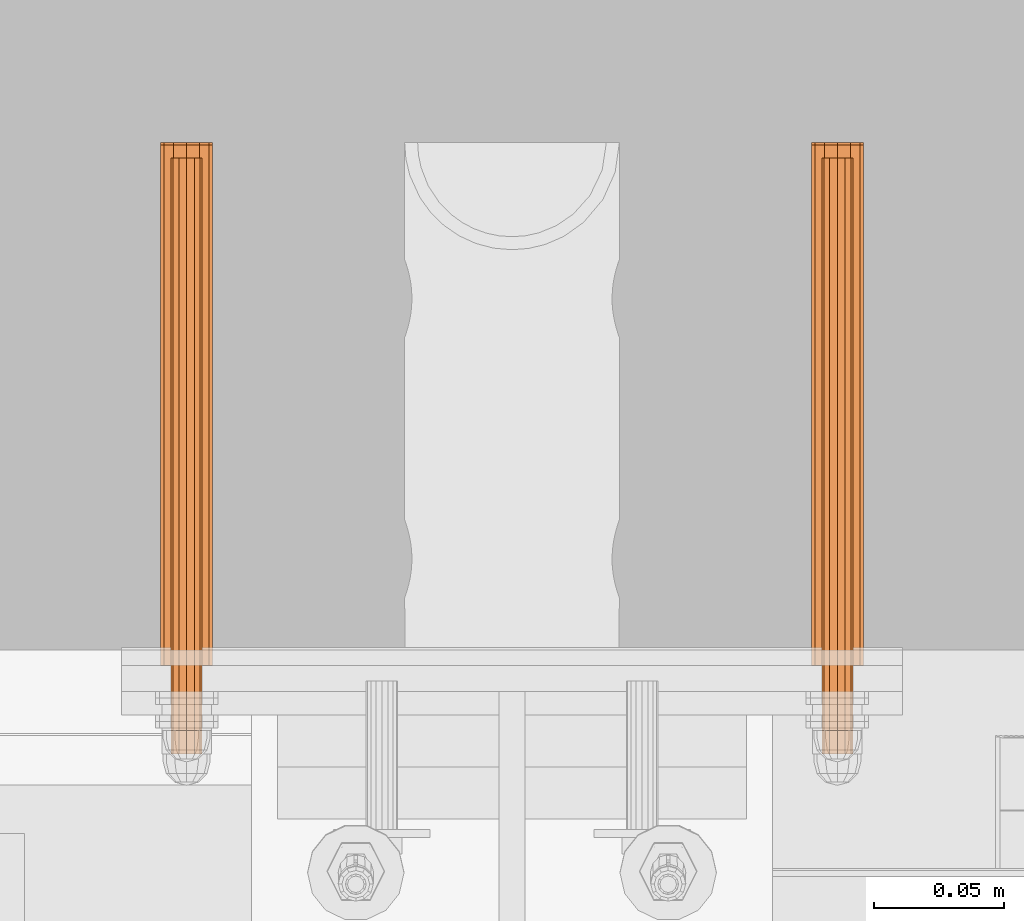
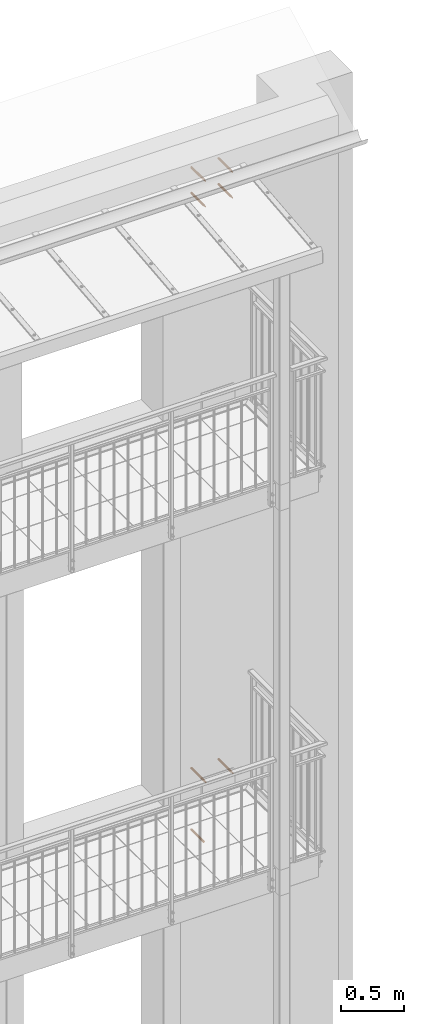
# One storey, part 98 of 162: 13 proxies.
"""IFC2X3 building model written with IfcOpenShell, lengths in millimetres."""

from ifc_helpers import new_model, entity, si_unit, converted_unit, origin_with_axes, place, context, project, spatial, faceted_brep, material, element, save


model = new_model("IFC2X3")

# Units and contexts
model_context = context("Model", 3, precision=1e-09, world=origin_with_axes())
ifc_project = project(units=[si_unit("LENGTHUNIT", "METRE", prefix="MILLI"), si_unit("AREAUNIT", "SQUARE_METRE"), si_unit("VOLUMEUNIT", "CUBIC_METRE"), converted_unit("PLANEANGLEUNIT", "DEGREE", entity("IfcPlaneAngleMeasure", 0.01745329), si_unit("PLANEANGLEUNIT", "RADIAN"), dimensions=[0, 0, 0, 0, 0, 0, 0])], contexts=[model_context])

# Site, building, storey
site_placement = place(None, origin_with_axes())
site = spatial("IfcSite", under=ifc_project, at=site_placement, Name="Hermannstra?e 1a, 60318 Frankfurt", CompositionType="ELEMENT")
building_placement = place(site_placement, origin_with_axes())
building = spatial("IfcBuilding", under=site, at=building_placement, Name="Struktur 1", CompositionType="ELEMENT")
storey_placement = place(building_placement, origin_with_axes())
storey = spatial("IfcBuildingStorey", under=building, at=storey_placement, Name="Default Storey", CompositionType="ELEMENT", Elevation=0.0)

# Proxies
ifc_material_1 = material(Name="Kunststoff")
proxy_1_placement = place(None, origin_with_axes())
element("IfcBuildingElementProxy", 1, at=proxy_1_placement, inside=storey, material=ifc_material_1, ObjectType="-", context=model_context, shape_type="Brep", body=[
    faceted_brep([(5706.969618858, 2929.609373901, 17211.999), (5703.309364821, 2929.609373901, 17208.338745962), (5698.309364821, 2929.609373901, 17206.999), (5693.309364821, 2929.609373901, 17208.338745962), (5689.649110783, 2929.609373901, 17211.999), (5688.309364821, 2929.609373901, 17216.999), (5689.649110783, 2929.609373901, 17221.999), (5693.309364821, 2929.609373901, 17225.659254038), (5698.309364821, 2929.609373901, 17226.999), (5703.309364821, 2929.609373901, 17225.659254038), (5706.969618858, 2929.609373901, 17221.999), (5708.309364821, 2929.609373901, 17216.999), (5698.309364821, 2729.609373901, 17226.999), (5703.309364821, 2729.609373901, 17225.659254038), (5693.309364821, 2729.609373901, 17225.659254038), (5689.649110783, 2729.609373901, 17221.999), (5689.649110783, 2729.609373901, 17211.999), (5693.309364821, 2729.609373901, 17208.338745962), (5688.309364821, 2729.609373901, 17216.999), (5698.309364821, 2729.609373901, 17206.999), (5703.309364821, 2729.609373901, 17208.338745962), (5706.969618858, 2729.609373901, 17211.999), (5708.309364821, 2729.609373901, 17216.999), (5706.969618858, 2729.609373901, 17221.999), (5694.059364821, 2729.609373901, 17209.637784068), (5690.948148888, 2729.609373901, 17212.749), (5689.809364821, 2729.609373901, 17216.999), (5690.948148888, 2729.609373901, 17221.249), (5694.059364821, 2729.609373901, 17224.360215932), (5698.309364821, 2729.609373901, 17225.499), (5702.559364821, 2729.609373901, 17224.360215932), (5705.670580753, 2729.609373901, 17221.249), (5706.809364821, 2729.609373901, 17216.999), (5705.670580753, 2729.609373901, 17212.749), (5702.559364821, 2729.609373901, 17209.637784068), (5698.309364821, 2729.609373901, 17208.499), (5694.059364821, 2927.609373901, 17209.637784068), (5698.309364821, 2927.609373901, 17208.499), (5690.948148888, 2927.609373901, 17212.749), (5698.309364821, 2927.609373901, 17225.499), (5702.559364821, 2927.609373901, 17224.360215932), (5694.059364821, 2927.609373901, 17224.360215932), (5705.670580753, 2927.609373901, 17221.249), (5690.948148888, 2927.609373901, 17221.249), (5689.809364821, 2927.609373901, 17216.999), (5702.559364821, 2927.609373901, 17209.637784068), (5705.670580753, 2927.609373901, 17212.749), (5706.809364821, 2927.609373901, 17216.999)], [[[0, 1, 2, 3, 4, 5, 6, 7, 8, 9, 10, 11]], [[8, 12, 13, 9]], [[7, 14, 12, 8]], [[6, 15, 14, 7]], [[16, 4, 3, 17]], [[5, 18, 15, 6]], [[17, 3, 2, 19]], [[18, 16, 17, 19, 20, 21, 22, 23, 13, 12, 14, 15], [24, 25, 26, 27, 28, 29, 30, 31, 32, 33, 34, 35]], [[18, 5, 4, 16]], [[9, 13, 23, 10]], [[19, 2, 1, 20]], [[36, 24, 35, 37]], [[24, 36, 38, 25]], [[29, 39, 40, 30]], [[39, 29, 28, 41]], [[42, 40, 39, 41, 43, 44, 38, 36, 37, 45, 46, 47]], [[10, 23, 22, 11]], [[20, 1, 0, 21]], [[37, 35, 34, 45]], [[27, 43, 41, 28]], [[26, 44, 43, 27]], [[25, 38, 44, 26]], [[11, 22, 21, 0]], [[30, 40, 42, 31]], [[45, 34, 33, 46]], [[31, 42, 47, 32]], [[46, 33, 32, 47]]]),
])
ifc_material_2 = material(Name="A4")
proxy_2_placement = place(None, origin_with_axes())
element("IfcBuildingElementProxy", 2, at=proxy_2_placement, inside=storey, material=ifc_material_2, ObjectType="-", context=model_context, shape_type="Brep", body=[
    faceted_brep([(5698.309364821, 2924.609373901, 17222.999), (5698.309364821, 2704.609373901, 17222.999), (5701.309364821, 2704.609373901, 17222.195152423), (5701.309364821, 2924.609373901, 17222.195152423), (5695.309364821, 2924.609373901, 17222.195152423), (5695.309364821, 2704.609373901, 17222.195152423), (5693.113212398, 2704.609373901, 17213.999), (5695.309364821, 2704.609373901, 17211.802847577), (5698.309364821, 2704.609373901, 17210.999), (5701.309364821, 2704.609373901, 17211.802847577), (5703.505517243, 2704.609373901, 17213.999), (5704.309364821, 2704.609373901, 17216.999), (5703.505517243, 2704.609373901, 17219.999), (5693.113212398, 2704.609373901, 17219.999), (5692.309364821, 2704.609373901, 17216.999), (5703.505517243, 2924.609373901, 17213.999), (5701.309364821, 2924.609373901, 17211.802847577), (5698.309364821, 2924.609373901, 17210.999), (5695.309364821, 2924.609373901, 17211.802847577), (5693.113212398, 2924.609373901, 17213.999), (5692.309364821, 2924.609373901, 17216.999), (5693.113212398, 2924.609373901, 17219.999), (5703.505517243, 2924.609373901, 17219.999), (5704.309364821, 2924.609373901, 17216.999)], [[[0, 1, 2, 3]], [[1, 0, 4, 5]], [[6, 7, 8, 9, 10, 11, 12, 2, 1, 5, 13, 14]], [[15, 16, 17, 18, 19, 20, 21, 4, 0, 3, 22, 23]], [[3, 2, 12, 22]], [[5, 4, 21, 13]], [[11, 23, 22, 12]], [[10, 15, 23, 11]], [[13, 21, 20, 14]], [[16, 9, 8, 17]], [[15, 10, 9, 16]], [[17, 8, 7, 18]], [[14, 20, 19, 6]], [[18, 7, 6, 19]]]),
])
proxy_3_placement = place(None, origin_with_axes())
element("IfcBuildingElementProxy", 3, at=proxy_3_placement, inside=storey, material=ifc_material_1, ObjectType="-", context=model_context, shape_type="Brep", body=[
    faceted_brep([(5456.969618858, 2929.609373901, 17211.999), (5453.309364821, 2929.609373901, 17208.338745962), (5448.309364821, 2929.609373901, 17206.999), (5443.309364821, 2929.609373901, 17208.338745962), (5439.649110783, 2929.609373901, 17211.999), (5438.309364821, 2929.609373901, 17216.999), (5439.649110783, 2929.609373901, 17221.999), (5443.309364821, 2929.609373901, 17225.659254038), (5448.309364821, 2929.609373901, 17226.999), (5453.309364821, 2929.609373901, 17225.659254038), (5456.969618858, 2929.609373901, 17221.999), (5458.309364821, 2929.609373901, 17216.999), (5448.309364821, 2729.609373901, 17226.999), (5453.309364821, 2729.609373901, 17225.659254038), (5443.309364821, 2729.609373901, 17225.659254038), (5439.649110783, 2729.609373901, 17221.999), (5439.649110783, 2729.609373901, 17211.999), (5443.309364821, 2729.609373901, 17208.338745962), (5438.309364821, 2729.609373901, 17216.999), (5448.309364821, 2729.609373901, 17206.999), (5453.309364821, 2729.609373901, 17208.338745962), (5456.969618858, 2729.609373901, 17211.999), (5458.309364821, 2729.609373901, 17216.999), (5456.969618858, 2729.609373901, 17221.999), (5444.059364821, 2729.609373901, 17209.637784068), (5440.948148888, 2729.609373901, 17212.749), (5439.809364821, 2729.609373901, 17216.999), (5440.948148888, 2729.609373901, 17221.249), (5444.059364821, 2729.609373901, 17224.360215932), (5448.309364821, 2729.609373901, 17225.499), (5452.559364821, 2729.609373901, 17224.360215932), (5455.670580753, 2729.609373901, 17221.249), (5456.809364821, 2729.609373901, 17216.999), (5455.670580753, 2729.609373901, 17212.749), (5452.559364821, 2729.609373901, 17209.637784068), (5448.309364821, 2729.609373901, 17208.499), (5444.059364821, 2927.609373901, 17209.637784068), (5448.309364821, 2927.609373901, 17208.499), (5440.948148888, 2927.609373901, 17212.749), (5448.309364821, 2927.609373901, 17225.499), (5452.559364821, 2927.609373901, 17224.360215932), (5444.059364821, 2927.609373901, 17224.360215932), (5455.670580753, 2927.609373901, 17221.249), (5440.948148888, 2927.609373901, 17221.249), (5439.809364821, 2927.609373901, 17216.999), (5452.559364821, 2927.609373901, 17209.637784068), (5455.670580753, 2927.609373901, 17212.749), (5456.809364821, 2927.609373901, 17216.999)], [[[0, 1, 2, 3, 4, 5, 6, 7, 8, 9, 10, 11]], [[8, 12, 13, 9]], [[7, 14, 12, 8]], [[6, 15, 14, 7]], [[16, 4, 3, 17]], [[5, 18, 15, 6]], [[17, 3, 2, 19]], [[18, 16, 17, 19, 20, 21, 22, 23, 13, 12, 14, 15], [24, 25, 26, 27, 28, 29, 30, 31, 32, 33, 34, 35]], [[18, 5, 4, 16]], [[9, 13, 23, 10]], [[19, 2, 1, 20]], [[36, 24, 35, 37]], [[24, 36, 38, 25]], [[29, 39, 40, 30]], [[39, 29, 28, 41]], [[42, 40, 39, 41, 43, 44, 38, 36, 37, 45, 46, 47]], [[10, 23, 22, 11]], [[20, 1, 0, 21]], [[37, 35, 34, 45]], [[27, 43, 41, 28]], [[26, 44, 43, 27]], [[25, 38, 44, 26]], [[11, 22, 21, 0]], [[30, 40, 42, 31]], [[45, 34, 33, 46]], [[31, 42, 47, 32]], [[46, 33, 32, 47]]]),
])
proxy_4_placement = place(None, origin_with_axes())
element("IfcBuildingElementProxy", 4, at=proxy_4_placement, inside=storey, material=ifc_material_2, ObjectType="-", context=model_context, shape_type="Brep", body=[
    faceted_brep([(5448.309364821, 2924.609373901, 17222.999), (5448.309364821, 2704.609373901, 17222.999), (5451.309364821, 2704.609373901, 17222.195152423), (5451.309364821, 2924.609373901, 17222.195152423), (5445.309364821, 2924.609373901, 17222.195152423), (5445.309364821, 2704.609373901, 17222.195152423), (5443.113212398, 2704.609373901, 17213.999), (5445.309364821, 2704.609373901, 17211.802847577), (5448.309364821, 2704.609373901, 17210.999), (5451.309364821, 2704.609373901, 17211.802847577), (5453.505517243, 2704.609373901, 17213.999), (5454.309364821, 2704.609373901, 17216.999), (5453.505517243, 2704.609373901, 17219.999), (5443.113212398, 2704.609373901, 17219.999), (5442.309364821, 2704.609373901, 17216.999), (5453.505517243, 2924.609373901, 17213.999), (5451.309364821, 2924.609373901, 17211.802847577), (5448.309364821, 2924.609373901, 17210.999), (5445.309364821, 2924.609373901, 17211.802847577), (5443.113212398, 2924.609373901, 17213.999), (5442.309364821, 2924.609373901, 17216.999), (5443.113212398, 2924.609373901, 17219.999), (5453.505517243, 2924.609373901, 17219.999), (5454.309364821, 2924.609373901, 17216.999)], [[[0, 1, 2, 3]], [[1, 0, 4, 5]], [[6, 7, 8, 9, 10, 11, 12, 2, 1, 5, 13, 14]], [[15, 16, 17, 18, 19, 20, 21, 4, 0, 3, 22, 23]], [[3, 2, 12, 22]], [[5, 4, 21, 13]], [[11, 23, 22, 12]], [[10, 15, 23, 11]], [[13, 21, 20, 14]], [[16, 9, 8, 17]], [[15, 10, 9, 16]], [[17, 8, 7, 18]], [[14, 20, 19, 6]], [[18, 7, 6, 19]]]),
])
proxy_5_placement = place(None, origin_with_axes())
element("IfcBuildingElementProxy", 5, at=proxy_5_placement, inside=storey, material=ifc_material_2, ObjectType="-", context=model_context, shape_type="Brep", body=[
    faceted_brep([(5448.309364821, 2704.609373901, 17460.999), (5448.309364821, 2924.609373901, 17460.999), (5451.309364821, 2924.609373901, 17461.802847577), (5451.309364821, 2704.609373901, 17461.802847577), (5445.309364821, 2704.609373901, 17461.802847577), (5445.309364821, 2924.609373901, 17461.802847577), (5445.309364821, 2704.609373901, 17472.195152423), (5443.113212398, 2704.609373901, 17469.999), (5442.309364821, 2704.609373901, 17466.999), (5443.113212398, 2704.609373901, 17463.999), (5453.505517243, 2704.609373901, 17463.999), (5454.309364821, 2704.609373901, 17466.999), (5453.505517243, 2704.609373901, 17469.999), (5451.309364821, 2704.609373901, 17472.195152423), (5448.309364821, 2704.609373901, 17472.999), (5451.309364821, 2924.609373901, 17472.195152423), (5453.505517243, 2924.609373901, 17469.999), (5454.309364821, 2924.609373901, 17466.999), (5453.505517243, 2924.609373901, 17463.999), (5443.113212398, 2924.609373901, 17463.999), (5442.309364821, 2924.609373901, 17466.999), (5443.113212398, 2924.609373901, 17469.999), (5445.309364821, 2924.609373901, 17472.195152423), (5448.309364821, 2924.609373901, 17472.999)], [[[0, 1, 2, 3]], [[1, 0, 4, 5]], [[6, 7, 8, 9, 4, 0, 3, 10, 11, 12, 13, 14]], [[15, 16, 17, 18, 2, 1, 5, 19, 20, 21, 22, 23]], [[3, 2, 18, 10]], [[5, 4, 9, 19]], [[17, 11, 10, 18]], [[16, 12, 11, 17]], [[19, 9, 8, 20]], [[13, 15, 23, 14]], [[12, 16, 15, 13]], [[14, 23, 22, 6]], [[20, 8, 7, 21]], [[6, 22, 21, 7]]]),
])
proxy_6_placement = place(None, origin_with_axes())
element("IfcBuildingElementProxy", 6, at=proxy_6_placement, inside=storey, material=ifc_material_1, ObjectType="-", context=model_context, shape_type="Brep", body=[
    faceted_brep([(5453.309364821, 2929.609373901, 17475.659254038), (5456.969618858, 2929.609373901, 17471.999), (5458.309364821, 2929.609373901, 17466.999), (5456.969618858, 2929.609373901, 17461.999), (5453.309364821, 2929.609373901, 17458.338745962), (5448.309364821, 2929.609373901, 17456.999), (5443.309364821, 2929.609373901, 17458.338745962), (5439.649110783, 2929.609373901, 17461.999), (5438.309364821, 2929.609373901, 17466.999), (5439.649110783, 2929.609373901, 17471.999), (5443.309364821, 2929.609373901, 17475.659254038), (5448.309364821, 2929.609373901, 17476.999), (5448.309364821, 2729.609373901, 17456.999), (5453.309364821, 2729.609373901, 17458.338745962), (5443.309364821, 2729.609373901, 17458.338745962), (5439.649110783, 2729.609373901, 17461.999), (5439.649110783, 2729.609373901, 17471.999), (5443.309364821, 2729.609373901, 17475.659254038), (5438.309364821, 2729.609373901, 17466.999), (5448.309364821, 2729.609373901, 17476.999), (5456.969618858, 2729.609373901, 17461.999), (5458.309364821, 2729.609373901, 17466.999), (5456.969618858, 2729.609373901, 17471.999), (5453.309364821, 2729.609373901, 17475.659254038), (5444.059364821, 2729.609373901, 17474.360215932), (5444.059364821, 2927.609373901, 17474.360215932), (5448.309364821, 2927.609373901, 17475.499), (5448.309364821, 2729.609373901, 17475.499), (5440.948148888, 2729.609373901, 17471.249), (5440.948148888, 2927.609373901, 17471.249), (5448.309364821, 2927.609373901, 17458.499), (5448.309364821, 2729.609373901, 17458.499), (5452.559364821, 2729.609373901, 17459.637784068), (5452.559364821, 2927.609373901, 17459.637784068), (5444.059364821, 2927.609373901, 17459.637784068), (5444.059364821, 2729.609373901, 17459.637784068), (5455.670580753, 2927.609373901, 17462.749), (5456.809364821, 2927.609373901, 17466.999), (5455.670580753, 2927.609373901, 17471.249), (5452.559364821, 2927.609373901, 17474.360215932), (5439.809364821, 2927.609373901, 17466.999), (5440.948148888, 2927.609373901, 17462.749), (5452.559364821, 2729.609373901, 17474.360215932), (5440.948148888, 2729.609373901, 17462.749), (5439.809364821, 2729.609373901, 17466.999), (5455.670580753, 2729.609373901, 17462.749), (5455.670580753, 2729.609373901, 17471.249), (5456.809364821, 2729.609373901, 17466.999)], [[[0, 1, 2, 3, 4, 5, 6, 7, 8, 9, 10, 11]], [[12, 5, 4, 13]], [[14, 6, 5, 12]], [[15, 7, 6, 14]], [[9, 16, 17, 10]], [[18, 8, 7, 15]], [[10, 17, 19, 11]], [[16, 18, 15, 14, 12, 13, 20, 21, 22, 23, 19, 17]], [[8, 18, 16, 9]], [[13, 4, 3, 20]], [[11, 19, 23, 0]], [[24, 25, 26, 27]], [[25, 24, 28, 29]], [[30, 31, 32, 33]], [[31, 30, 34, 35]], [[33, 36, 37, 38, 39, 26, 25, 29, 40, 41, 34, 30]], [[20, 3, 2, 21]], [[0, 23, 22, 1]], [[27, 26, 39, 42]], [[41, 43, 35, 34]], [[40, 44, 43, 41]], [[29, 28, 44, 40]], [[21, 2, 1, 22]], [[33, 32, 45, 36]], [[42, 39, 38, 46]], [[36, 45, 47, 37]], [[46, 38, 37, 47]]]),
])
proxy_7_placement = place(None, origin_with_axes())
element("IfcBuildingElementProxy", 7, at=proxy_7_placement, inside=storey, material=ifc_material_2, ObjectType="-", context=model_context, shape_type="Brep", body=[
    faceted_brep([(5698.309364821, 2704.609373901, 17460.999), (5698.309364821, 2924.609373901, 17460.999), (5701.309364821, 2924.609373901, 17461.802847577), (5701.309364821, 2704.609373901, 17461.802847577), (5695.309364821, 2704.609373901, 17461.802847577), (5695.309364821, 2924.609373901, 17461.802847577), (5695.309364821, 2704.609373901, 17472.195152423), (5693.113212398, 2704.609373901, 17469.999), (5692.309364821, 2704.609373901, 17466.999), (5693.113212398, 2704.609373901, 17463.999), (5703.505517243, 2704.609373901, 17463.999), (5704.309364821, 2704.609373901, 17466.999), (5703.505517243, 2704.609373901, 17469.999), (5701.309364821, 2704.609373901, 17472.195152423), (5698.309364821, 2704.609373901, 17472.999), (5701.309364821, 2924.609373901, 17472.195152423), (5703.505517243, 2924.609373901, 17469.999), (5704.309364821, 2924.609373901, 17466.999), (5703.505517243, 2924.609373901, 17463.999), (5693.113212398, 2924.609373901, 17463.999), (5692.309364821, 2924.609373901, 17466.999), (5693.113212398, 2924.609373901, 17469.999), (5695.309364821, 2924.609373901, 17472.195152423), (5698.309364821, 2924.609373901, 17472.999)], [[[0, 1, 2, 3]], [[1, 0, 4, 5]], [[6, 7, 8, 9, 4, 0, 3, 10, 11, 12, 13, 14]], [[15, 16, 17, 18, 2, 1, 5, 19, 20, 21, 22, 23]], [[3, 2, 18, 10]], [[5, 4, 9, 19]], [[17, 11, 10, 18]], [[16, 12, 11, 17]], [[19, 9, 8, 20]], [[13, 15, 23, 14]], [[12, 16, 15, 13]], [[14, 23, 22, 6]], [[20, 8, 7, 21]], [[6, 22, 21, 7]]]),
])
proxy_8_placement = place(None, origin_with_axes())
element("IfcBuildingElementProxy", 8, at=proxy_8_placement, inside=storey, material=ifc_material_1, ObjectType="-", context=model_context, shape_type="Brep", body=[
    faceted_brep([(5703.309364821, 2929.609373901, 17475.659254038), (5706.969618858, 2929.609373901, 17471.999), (5708.309364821, 2929.609373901, 17466.999), (5706.969618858, 2929.609373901, 17461.999), (5703.309364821, 2929.609373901, 17458.338745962), (5698.309364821, 2929.609373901, 17456.999), (5693.309364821, 2929.609373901, 17458.338745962), (5689.649110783, 2929.609373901, 17461.999), (5688.309364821, 2929.609373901, 17466.999), (5689.649110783, 2929.609373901, 17471.999), (5693.309364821, 2929.609373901, 17475.659254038), (5698.309364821, 2929.609373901, 17476.999), (5698.309364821, 2729.609373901, 17456.999), (5703.309364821, 2729.609373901, 17458.338745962), (5693.309364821, 2729.609373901, 17458.338745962), (5689.649110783, 2729.609373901, 17461.999), (5689.649110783, 2729.609373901, 17471.999), (5693.309364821, 2729.609373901, 17475.659254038), (5688.309364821, 2729.609373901, 17466.999), (5698.309364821, 2729.609373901, 17476.999), (5706.969618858, 2729.609373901, 17461.999), (5708.309364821, 2729.609373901, 17466.999), (5706.969618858, 2729.609373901, 17471.999), (5703.309364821, 2729.609373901, 17475.659254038), (5694.059364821, 2729.609373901, 17474.360215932), (5694.059364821, 2927.609373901, 17474.360215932), (5698.309364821, 2927.609373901, 17475.499), (5698.309364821, 2729.609373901, 17475.499), (5690.948148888, 2729.609373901, 17471.249), (5690.948148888, 2927.609373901, 17471.249), (5698.309364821, 2927.609373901, 17458.499), (5698.309364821, 2729.609373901, 17458.499), (5702.559364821, 2729.609373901, 17459.637784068), (5702.559364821, 2927.609373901, 17459.637784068), (5694.059364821, 2927.609373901, 17459.637784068), (5694.059364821, 2729.609373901, 17459.637784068), (5705.670580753, 2927.609373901, 17462.749), (5706.809364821, 2927.609373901, 17466.999), (5705.670580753, 2927.609373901, 17471.249), (5702.559364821, 2927.609373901, 17474.360215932), (5689.809364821, 2927.609373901, 17466.999), (5690.948148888, 2927.609373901, 17462.749), (5702.559364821, 2729.609373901, 17474.360215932), (5690.948148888, 2729.609373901, 17462.749), (5689.809364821, 2729.609373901, 17466.999), (5705.670580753, 2729.609373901, 17462.749), (5705.670580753, 2729.609373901, 17471.249), (5706.809364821, 2729.609373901, 17466.999)], [[[0, 1, 2, 3, 4, 5, 6, 7, 8, 9, 10, 11]], [[12, 5, 4, 13]], [[14, 6, 5, 12]], [[15, 7, 6, 14]], [[9, 16, 17, 10]], [[18, 8, 7, 15]], [[10, 17, 19, 11]], [[16, 18, 15, 14, 12, 13, 20, 21, 22, 23, 19, 17]], [[8, 18, 16, 9]], [[13, 4, 3, 20]], [[11, 19, 23, 0]], [[24, 25, 26, 27]], [[25, 24, 28, 29]], [[30, 31, 32, 33]], [[31, 30, 34, 35]], [[33, 36, 37, 38, 39, 26, 25, 29, 40, 41, 34, 30]], [[20, 3, 2, 21]], [[0, 23, 22, 1]], [[27, 26, 39, 42]], [[41, 43, 35, 34]], [[40, 44, 43, 41]], [[29, 28, 44, 40]], [[21, 2, 1, 22]], [[33, 32, 45, 36]], [[42, 39, 38, 46]], [[36, 45, 47, 37]], [[46, 38, 37, 47]]]),
])
proxy_9_placement = place(None, origin_with_axes())
element("IfcBuildingElementProxy", 9, at=proxy_9_placement, inside=storey, material=ifc_material_2, ObjectType="-", context=model_context, shape_type="Brep", body=[
    faceted_brep([(5448.30936482, 2915.609373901, 11598.999), (5448.30936482, 2695.609373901, 11598.999), (5445.30936482, 2695.609373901, 11599.802847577), (5445.30936482, 2915.609373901, 11599.802847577), (5451.30936482, 2915.609373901, 11599.802847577), (5451.30936482, 2695.609373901, 11599.802847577), (5453.505517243, 2695.609373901, 11607.999), (5451.30936482, 2695.609373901, 11610.195152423), (5448.30936482, 2695.609373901, 11610.999), (5445.30936482, 2695.609373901, 11610.195152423), (5443.113212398, 2695.609373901, 11607.999), (5442.30936482, 2695.609373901, 11604.999), (5443.113212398, 2695.609373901, 11601.999), (5453.505517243, 2695.609373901, 11601.999), (5454.30936482, 2695.609373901, 11604.999), (5443.113212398, 2915.609373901, 11607.999), (5445.30936482, 2915.609373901, 11610.195152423), (5448.30936482, 2915.609373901, 11610.999), (5451.30936482, 2915.609373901, 11610.195152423), (5453.505517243, 2915.609373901, 11607.999), (5454.30936482, 2915.609373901, 11604.999), (5453.505517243, 2915.609373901, 11601.999), (5443.113212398, 2915.609373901, 11601.999), (5442.30936482, 2915.609373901, 11604.999)], [[[0, 1, 2, 3]], [[1, 0, 4, 5]], [[6, 7, 8, 9, 10, 11, 12, 2, 1, 5, 13, 14]], [[15, 16, 17, 18, 19, 20, 21, 4, 0, 3, 22, 23]], [[3, 2, 12, 22]], [[5, 4, 21, 13]], [[11, 23, 22, 12]], [[10, 15, 23, 11]], [[13, 21, 20, 14]], [[16, 9, 8, 17]], [[15, 10, 9, 16]], [[17, 8, 7, 18]], [[14, 20, 19, 6]], [[18, 7, 6, 19]]]),
])
proxy_10_placement = place(None, origin_with_axes())
element("IfcBuildingElementProxy", 10, at=proxy_10_placement, inside=storey, material=ifc_material_1, ObjectType="-", context=model_context, shape_type="Brep", body=[
    faceted_brep([(5439.649110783, 2930.609373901, 11609.999), (5443.30936482, 2930.609373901, 11613.659254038), (5448.30936482, 2930.609373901, 11614.999), (5453.30936482, 2930.609373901, 11613.659254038), (5456.969618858, 2930.609373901, 11609.999), (5458.30936482, 2930.609373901, 11604.999), (5456.969618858, 2930.609373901, 11599.999), (5453.30936482, 2930.609373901, 11596.338745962), (5448.30936482, 2930.609373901, 11594.999), (5443.30936482, 2930.609373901, 11596.338745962), (5439.649110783, 2930.609373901, 11599.999), (5438.30936482, 2930.609373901, 11604.999), (5448.30936482, 2730.609373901, 11594.999), (5443.30936482, 2730.609373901, 11596.338745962), (5453.30936482, 2730.609373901, 11596.338745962), (5456.969618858, 2730.609373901, 11599.999), (5456.969618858, 2730.609373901, 11609.999), (5453.30936482, 2730.609373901, 11613.659254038), (5458.30936482, 2730.609373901, 11604.999), (5448.30936482, 2730.609373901, 11614.999), (5443.30936482, 2730.609373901, 11613.659254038), (5439.649110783, 2730.609373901, 11609.999), (5438.30936482, 2730.609373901, 11604.999), (5439.649110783, 2730.609373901, 11599.999), (5452.55936482, 2730.609373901, 11612.360215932), (5455.670580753, 2730.609373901, 11609.249), (5456.80936482, 2730.609373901, 11604.999), (5455.670580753, 2730.609373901, 11600.749), (5452.55936482, 2730.609373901, 11597.637784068), (5448.30936482, 2730.609373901, 11596.499), (5444.05936482, 2730.609373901, 11597.637784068), (5440.948148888, 2730.609373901, 11600.749), (5439.80936482, 2730.609373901, 11604.999), (5440.948148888, 2730.609373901, 11609.249), (5444.05936482, 2730.609373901, 11612.360215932), (5448.30936482, 2730.609373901, 11613.499), (5452.55936482, 2928.609373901, 11612.360215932), (5448.30936482, 2928.609373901, 11613.499), (5455.670580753, 2928.609373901, 11609.249), (5448.30936482, 2928.609373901, 11596.499), (5444.05936482, 2928.609373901, 11597.637784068), (5452.55936482, 2928.609373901, 11597.637784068), (5440.948148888, 2928.609373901, 11600.749), (5455.670580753, 2928.609373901, 11600.749), (5456.80936482, 2928.609373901, 11604.999), (5444.05936482, 2928.609373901, 11612.360215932), (5440.948148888, 2928.609373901, 11609.249), (5439.80936482, 2928.609373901, 11604.999)], [[[0, 1, 2, 3, 4, 5, 6, 7, 8, 9, 10, 11]], [[8, 12, 13, 9]], [[7, 14, 12, 8]], [[6, 15, 14, 7]], [[16, 4, 3, 17]], [[5, 18, 15, 6]], [[17, 3, 2, 19]], [[18, 16, 17, 19, 20, 21, 22, 23, 13, 12, 14, 15], [24, 25, 26, 27, 28, 29, 30, 31, 32, 33, 34, 35]], [[18, 5, 4, 16]], [[9, 13, 23, 10]], [[19, 2, 1, 20]], [[36, 24, 35, 37]], [[24, 36, 38, 25]], [[29, 39, 40, 30]], [[39, 29, 28, 41]], [[42, 40, 39, 41, 43, 44, 38, 36, 37, 45, 46, 47]], [[10, 23, 22, 11]], [[20, 1, 0, 21]], [[37, 35, 34, 45]], [[27, 43, 41, 28]], [[26, 44, 43, 27]], [[25, 38, 44, 26]], [[11, 22, 21, 0]], [[30, 40, 42, 31]], [[45, 34, 33, 46]], [[31, 42, 47, 32]], [[46, 33, 32, 47]]]),
])
proxy_11_placement = place(None, origin_with_axes())
element("IfcBuildingElementProxy", 11, at=proxy_11_placement, inside=storey, material=ifc_material_2, ObjectType="-", context=model_context, shape_type="Brep", body=[
    faceted_brep([(5698.30936482, 2915.609373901, 11598.999), (5698.30936482, 2695.609373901, 11598.999), (5695.30936482, 2695.609373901, 11599.802847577), (5695.30936482, 2915.609373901, 11599.802847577), (5701.30936482, 2915.609373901, 11599.802847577), (5701.30936482, 2695.609373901, 11599.802847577), (5703.505517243, 2695.609373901, 11607.999), (5701.30936482, 2695.609373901, 11610.195152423), (5698.30936482, 2695.609373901, 11610.999), (5695.30936482, 2695.609373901, 11610.195152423), (5693.113212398, 2695.609373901, 11607.999), (5692.30936482, 2695.609373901, 11604.999), (5693.113212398, 2695.609373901, 11601.999), (5703.505517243, 2695.609373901, 11601.999), (5704.30936482, 2695.609373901, 11604.999), (5693.113212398, 2915.609373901, 11607.999), (5695.30936482, 2915.609373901, 11610.195152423), (5698.30936482, 2915.609373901, 11610.999), (5701.30936482, 2915.609373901, 11610.195152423), (5703.505517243, 2915.609373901, 11607.999), (5704.30936482, 2915.609373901, 11604.999), (5703.505517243, 2915.609373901, 11601.999), (5693.113212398, 2915.609373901, 11601.999), (5692.30936482, 2915.609373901, 11604.999)], [[[0, 1, 2, 3]], [[1, 0, 4, 5]], [[6, 7, 8, 9, 10, 11, 12, 2, 1, 5, 13, 14]], [[15, 16, 17, 18, 19, 20, 21, 4, 0, 3, 22, 23]], [[3, 2, 12, 22]], [[5, 4, 21, 13]], [[11, 23, 22, 12]], [[10, 15, 23, 11]], [[13, 21, 20, 14]], [[16, 9, 8, 17]], [[15, 10, 9, 16]], [[17, 8, 7, 18]], [[14, 20, 19, 6]], [[18, 7, 6, 19]]]),
])
proxy_12_placement = place(None, origin_with_axes())
element("IfcBuildingElementProxy", 12, at=proxy_12_placement, inside=storey, material=ifc_material_1, ObjectType="-", context=model_context, shape_type="Brep", body=[
    faceted_brep([(5689.649110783, 2930.609373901, 11609.999), (5693.30936482, 2930.609373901, 11613.659254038), (5698.30936482, 2930.609373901, 11614.999), (5703.30936482, 2930.609373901, 11613.659254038), (5706.969618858, 2930.609373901, 11609.999), (5708.30936482, 2930.609373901, 11604.999), (5706.969618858, 2930.609373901, 11599.999), (5703.30936482, 2930.609373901, 11596.338745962), (5698.30936482, 2930.609373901, 11594.999), (5693.30936482, 2930.609373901, 11596.338745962), (5689.649110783, 2930.609373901, 11599.999), (5688.30936482, 2930.609373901, 11604.999), (5698.30936482, 2730.609373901, 11594.999), (5693.30936482, 2730.609373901, 11596.338745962), (5703.30936482, 2730.609373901, 11596.338745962), (5706.969618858, 2730.609373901, 11599.999), (5706.969618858, 2730.609373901, 11609.999), (5703.30936482, 2730.609373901, 11613.659254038), (5708.30936482, 2730.609373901, 11604.999), (5698.30936482, 2730.609373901, 11614.999), (5693.30936482, 2730.609373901, 11613.659254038), (5689.649110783, 2730.609373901, 11609.999), (5688.30936482, 2730.609373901, 11604.999), (5689.649110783, 2730.609373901, 11599.999), (5702.55936482, 2730.609373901, 11612.360215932), (5705.670580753, 2730.609373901, 11609.249), (5706.80936482, 2730.609373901, 11604.999), (5705.670580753, 2730.609373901, 11600.749), (5702.55936482, 2730.609373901, 11597.637784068), (5698.30936482, 2730.609373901, 11596.499), (5694.05936482, 2730.609373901, 11597.637784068), (5690.948148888, 2730.609373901, 11600.749), (5689.80936482, 2730.609373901, 11604.999), (5690.948148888, 2730.609373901, 11609.249), (5694.05936482, 2730.609373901, 11612.360215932), (5698.30936482, 2730.609373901, 11613.499), (5702.55936482, 2928.609373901, 11612.360215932), (5698.30936482, 2928.609373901, 11613.499), (5705.670580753, 2928.609373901, 11609.249), (5698.30936482, 2928.609373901, 11596.499), (5694.05936482, 2928.609373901, 11597.637784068), (5702.55936482, 2928.609373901, 11597.637784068), (5690.948148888, 2928.609373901, 11600.749), (5705.670580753, 2928.609373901, 11600.749), (5706.80936482, 2928.609373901, 11604.999), (5694.05936482, 2928.609373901, 11612.360215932), (5690.948148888, 2928.609373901, 11609.249), (5689.80936482, 2928.609373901, 11604.999)], [[[0, 1, 2, 3, 4, 5, 6, 7, 8, 9, 10, 11]], [[8, 12, 13, 9]], [[7, 14, 12, 8]], [[6, 15, 14, 7]], [[16, 4, 3, 17]], [[5, 18, 15, 6]], [[17, 3, 2, 19]], [[18, 16, 17, 19, 20, 21, 22, 23, 13, 12, 14, 15], [24, 25, 26, 27, 28, 29, 30, 31, 32, 33, 34, 35]], [[18, 5, 4, 16]], [[9, 13, 23, 10]], [[19, 2, 1, 20]], [[36, 24, 35, 37]], [[24, 36, 38, 25]], [[29, 39, 40, 30]], [[39, 29, 28, 41]], [[42, 40, 39, 41, 43, 44, 38, 36, 37, 45, 46, 47]], [[10, 23, 22, 11]], [[20, 1, 0, 21]], [[37, 35, 34, 45]], [[27, 43, 41, 28]], [[26, 44, 43, 27]], [[25, 38, 44, 26]], [[11, 22, 21, 0]], [[30, 40, 42, 31]], [[45, 34, 33, 46]], [[31, 42, 47, 32]], [[46, 33, 32, 47]]]),
])
proxy_13_placement = place(None, origin_with_axes())
element("IfcBuildingElementProxy", 13, at=proxy_13_placement, inside=storey, material=ifc_material_1, ObjectType="-", context=model_context, shape_type="Brep", body=[
    faceted_brep([(5443.30936482, 2930.609373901, 10996.338745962), (5439.649110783, 2930.609373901, 10999.999), (5438.30936482, 2930.609373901, 11004.999), (5439.649110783, 2930.609373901, 11009.999), (5443.30936482, 2930.609373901, 11013.659254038), (5448.30936482, 2930.609373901, 11014.999), (5453.30936482, 2930.609373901, 11013.659254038), (5456.969618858, 2930.609373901, 11009.999), (5458.30936482, 2930.609373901, 11004.999), (5456.969618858, 2930.609373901, 10999.999), (5453.30936482, 2930.609373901, 10996.338745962), (5448.30936482, 2930.609373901, 10994.999), (5448.30936482, 2730.609373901, 11014.999), (5443.30936482, 2730.609373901, 11013.659254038), (5453.30936482, 2730.609373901, 11013.659254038), (5456.969618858, 2730.609373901, 11009.999), (5456.969618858, 2730.609373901, 10999.999), (5453.30936482, 2730.609373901, 10996.338745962), (5458.30936482, 2730.609373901, 11004.999), (5448.30936482, 2730.609373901, 10994.999), (5439.649110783, 2730.609373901, 11009.999), (5438.30936482, 2730.609373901, 11004.999), (5439.649110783, 2730.609373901, 10999.999), (5443.30936482, 2730.609373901, 10996.338745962), (5452.55936482, 2730.609373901, 10997.637784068), (5452.55936482, 2928.609373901, 10997.637784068), (5448.30936482, 2928.609373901, 10996.499), (5448.30936482, 2730.609373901, 10996.499), (5455.670580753, 2730.609373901, 11000.749), (5455.670580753, 2928.609373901, 11000.749), (5448.30936482, 2928.609373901, 11013.499), (5448.30936482, 2730.609373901, 11013.499), (5444.05936482, 2730.609373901, 11012.360215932), (5444.05936482, 2928.609373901, 11012.360215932), (5452.55936482, 2928.609373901, 11012.360215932), (5452.55936482, 2730.609373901, 11012.360215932), (5440.948148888, 2928.609373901, 11009.249), (5439.80936482, 2928.609373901, 11004.999), (5440.948148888, 2928.609373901, 11000.749), (5444.05936482, 2928.609373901, 10997.637784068), (5456.80936482, 2928.609373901, 11004.999), (5455.670580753, 2928.609373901, 11009.249), (5444.05936482, 2730.609373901, 10997.637784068), (5455.670580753, 2730.609373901, 11009.249), (5456.80936482, 2730.609373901, 11004.999), (5440.948148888, 2730.609373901, 11009.249), (5440.948148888, 2730.609373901, 11000.749), (5439.80936482, 2730.609373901, 11004.999)], [[[0, 1, 2, 3, 4, 5, 6, 7, 8, 9, 10, 11]], [[12, 5, 4, 13]], [[14, 6, 5, 12]], [[15, 7, 6, 14]], [[9, 16, 17, 10]], [[18, 8, 7, 15]], [[10, 17, 19, 11]], [[16, 18, 15, 14, 12, 13, 20, 21, 22, 23, 19, 17]], [[8, 18, 16, 9]], [[13, 4, 3, 20]], [[11, 19, 23, 0]], [[24, 25, 26, 27]], [[25, 24, 28, 29]], [[30, 31, 32, 33]], [[31, 30, 34, 35]], [[33, 36, 37, 38, 39, 26, 25, 29, 40, 41, 34, 30]], [[20, 3, 2, 21]], [[0, 23, 22, 1]], [[27, 26, 39, 42]], [[41, 43, 35, 34]], [[40, 44, 43, 41]], [[29, 28, 44, 40]], [[21, 2, 1, 22]], [[33, 32, 45, 36]], [[42, 39, 38, 46]], [[36, 45, 47, 37]], [[46, 38, 37, 47]]]),
])

save(model, "model.ifc")
